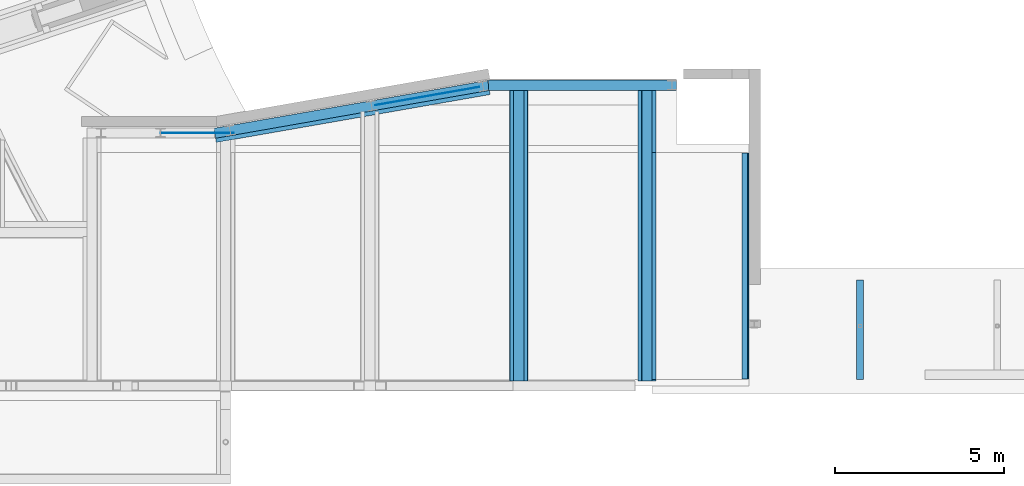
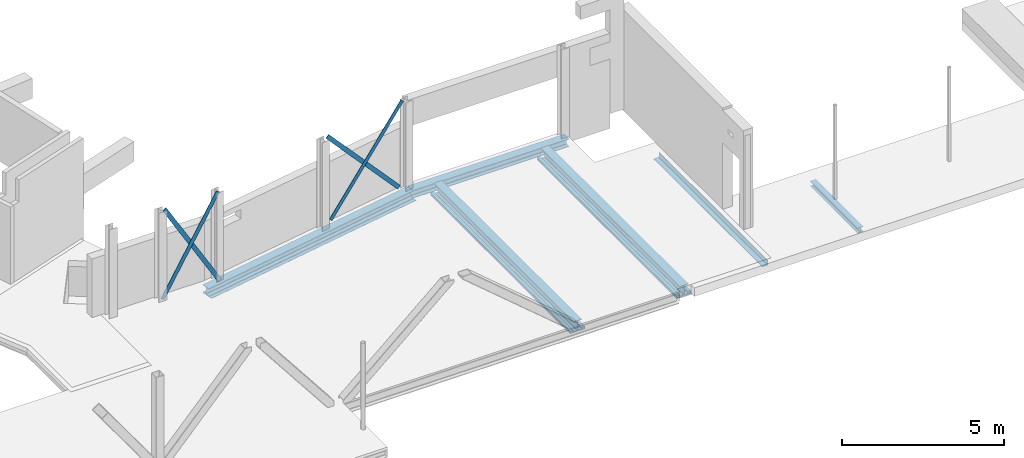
# One storey, part 16 of 37: 14 beams.
"""IFC2X3 building model written with IfcOpenShell, lengths in millimetres."""

from ifc_helpers import new_model, entity, si_unit, converted_unit, derived_unit, direction, frame, frame_2d, origin, place, context, subcontext, project, spatial, polyline, circle_curve, parameter, trimmed, segment, composite_curve, rectangle, i_section, outline, extrude, source, transform, mapped, material, material_list, type_object, type_shapes, element, save


model = new_model("IFC2X3")

# Units and contexts
model_context = context("Model", 3, precision=0.01, world=origin(), true_north=direction((6.12303176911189e-17, 1.0)))
body_context = subcontext(model_context, "Body", "Model", "MODEL_VIEW")
ifc_project = project(units=[si_unit("LENGTHUNIT", "METRE", prefix="MILLI"), si_unit("AREAUNIT", "SQUARE_METRE", prefix="MILLI"), si_unit("VOLUMEUNIT", "CUBIC_METRE"), converted_unit("PLANEANGLEUNIT", "DEGREE", entity("IfcRatioMeasure", 0.0174532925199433), si_unit("PLANEANGLEUNIT", "RADIAN"), dimensions=[0, 0, 0, 0, 0, 0, 0]), si_unit("MASSUNIT", "GRAM", prefix="KILO"), derived_unit("MASSDENSITYUNIT", [(si_unit("MASSUNIT", "GRAM", prefix="KILO"), 1), (si_unit("LENGTHUNIT", "METRE"), -3)]), derived_unit("MOMENTOFINERTIAUNIT", [(si_unit("LENGTHUNIT", "METRE"), 4)]), si_unit("TIMEUNIT", "SECOND"), si_unit("FREQUENCYUNIT", "HERTZ"), si_unit("THERMODYNAMICTEMPERATUREUNIT", "DEGREE_CELSIUS"), derived_unit("THERMALTRANSMITTANCEUNIT", [(si_unit("MASSUNIT", "GRAM", prefix="KILO"), 1), (si_unit("THERMODYNAMICTEMPERATUREUNIT", "KELVIN"), -1), (si_unit("TIMEUNIT", "SECOND"), -3)]), derived_unit("VOLUMETRICFLOWRATEUNIT", [(si_unit("LENGTHUNIT", "METRE"), 3), (si_unit("TIMEUNIT", "SECOND"), -1)]), si_unit("ELECTRICCURRENTUNIT", "AMPERE"), si_unit("ELECTRICVOLTAGEUNIT", "VOLT"), si_unit("POWERUNIT", "WATT"), si_unit("FORCEUNIT", "NEWTON", prefix="KILO"), si_unit("ILLUMINANCEUNIT", "LUX"), si_unit("LUMINOUSFLUXUNIT", "LUMEN"), si_unit("LUMINOUSINTENSITYUNIT", "CANDELA"), derived_unit("USERDEFINED", [(si_unit("MASSUNIT", "GRAM", prefix="KILO"), -1), (si_unit("LENGTHUNIT", "METRE"), -2), (si_unit("TIMEUNIT", "SECOND"), 3), (si_unit("LUMINOUSFLUXUNIT", "LUMEN"), 1)]), derived_unit("LINEARVELOCITYUNIT", [(si_unit("LENGTHUNIT", "METRE"), 1), (si_unit("TIMEUNIT", "SECOND"), -1)]), si_unit("PRESSUREUNIT", "PASCAL"), derived_unit("USERDEFINED", [(si_unit("LENGTHUNIT", "METRE"), -2), (si_unit("MASSUNIT", "GRAM", prefix="KILO"), 1), (si_unit("TIMEUNIT", "SECOND"), -2)]), derived_unit("LINEARFORCEUNIT", [(si_unit("MASSUNIT", "GRAM", prefix="KILO"), 1), (si_unit("LENGTHUNIT", "METRE"), 1), (si_unit("TIMEUNIT", "SECOND"), -2), (si_unit("LENGTHUNIT", "METRE"), -1)]), derived_unit("PLANARFORCEUNIT", [(si_unit("MASSUNIT", "GRAM", prefix="KILO"), 1), (si_unit("LENGTHUNIT", "METRE"), 1), (si_unit("TIMEUNIT", "SECOND"), -2), (si_unit("LENGTHUNIT", "METRE"), -2)])], contexts=[model_context])

# Site, building, storey
site_placement = place(None, origin())
site = spatial("IfcSite", under=ifc_project, at=site_placement, Name="Theater aan de Parade", CompositionType="ELEMENT")
building_placement = place(site_placement, origin())
building = spatial("IfcBuilding", under=site, at=building_placement, Name="Theater aan de Parade", CompositionType="ELEMENT")
storey_placement = place(building_placement, frame((0.0, 0.0, 5020.0)))
storey = spatial("IfcBuildingStorey", under=building, at=storey_placement, Name="01 eerste verdieping", CompositionType="ELEMENT", Elevation=5020.0)

# Beams
ifc_material_1 = material(Name="00_PBT_MAT_staal_S355")
beam_type_1 = type_object("IfcBeamType", Name="28_PBT_SF_staal_H-profiel (void):S355_HE300B", PredefinedType="NOTDEFINED")
beam_1_placement = place(storey_placement, frame((59658.8912564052, 21855.0, 0.0)))
element("IfcBeam", 1, at=beam_1_placement, inside=storey, type_object=beam_type_1, material=ifc_material_1, Name="28_PBT_SF_staal_H-profiel (void):S355_HE300B", ObjectType="28_PBT_SF_staal_H-profiel (void):S355_HE300B", context=body_context, shape_type="SweptSolid", body=[
    extrude(outline(composite_curve([segment(polyline([(131.0, -150.0), (150.0, -150.0)]), True, "CONTINUOUS"), segment(polyline([(150.0, -150.0), (150.0, 150.0)]), True, "CONTINUOUS"), segment(polyline([(150.0, 150.0), (131.0, 150.0)]), True, "CONTINUOUS"), segment(polyline([(131.0, 150.0), (131.0, 32.5000000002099)]), True, "CONTINUOUS"), segment(trimmed(circle_curve(frame_2d((104.0, 32.5000000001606), x_axis=(1.0, 0.0)), 26.9999999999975), [parameter(269.999999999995)], [parameter(0.0)], True, "PARAMETER"), False, "CONTINUOUS"), segment(polyline([(104.0, 5.50000000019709), (-104.0, 5.49999999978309)]), True, "CONTINUOUS"), segment(trimmed(circle_curve(frame_2d((-104.0, 32.499999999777), x_axis=(0.0, -1.0)), 26.9999999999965), [parameter(269.999999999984)], [parameter(0.0)], True, "PARAMETER"), False, "CONTINUOUS"), segment(polyline([(-131.0, 32.4999999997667), (-131.0, 150.0)]), True, "CONTINUOUS"), segment(polyline([(-131.0, 150.0), (-150.0, 150.0)]), True, "CONTINUOUS"), segment(polyline([(-150.0, 150.0), (-150.0, -150.0)]), True, "CONTINUOUS"), segment(polyline([(-150.0, -150.0), (-131.0, -150.0)]), True, "CONTINUOUS"), segment(polyline([(-131.0, -150.0), (-131.0, -32.5000000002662)]), True, "CONTINUOUS"), segment(trimmed(circle_curve(frame_2d((-104.0, -32.5000000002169), x_axis=(-1.0, 0.0)), 26.9999999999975), [parameter(269.999999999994)], [parameter(0.0)], True, "PARAMETER"), False, "CONTINUOUS"), segment(polyline([(-104.0, -5.50000000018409), (104.0, -5.4999999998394)]), True, "CONTINUOUS"), segment(trimmed(circle_curve(frame_2d((104.0, -32.4999999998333), x_axis=(0.0, 1.0)), 26.9999999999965), [parameter(269.999999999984)], [parameter(0.0)], True, "PARAMETER"), False, "CONTINUOUS"), segment(polyline([(131.0, -32.4999999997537), (131.0, -150.0)]), True, "CONTINUOUS")], self_intersect=False)), frame((0.0, 0.0, -310.0), z_axis=(1.0, 0.0, 0.0), x_axis=(0.0, 0.0, -1.0)), (0.0, 0.0, 1.0), 5553.16081909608),
])
ifc_material_2 = material(Name="00_PBT_MAT_Lucht")
ifc_material_list_1 = material_list([ifc_material_2, ifc_material_1])
beam_type_2 = type_object("IfcBeamType", Name="28_PBT_SF_staal_H-profiel_met_ondergelaste_strip (void):S355_HE300B + ondergelaste strip d=12", PredefinedType="BEAM", material=ifc_material_list_1)
shared_shape_1 = source(origin(), body_context, "Body", "SweptSolid", [
    extrude(i_section(OverallWidth=299.999999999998, OverallDepth=300.0, WebThickness=11.0000000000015, FlangeThickness=19.0, FilletRadius=26.9999999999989, at=frame_2d((0.0, 6.3948846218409e-12), x_axis=(0.0, 1.0))), frame((51552.3742094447, 20432.0449294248, 4705.0), z_axis=(0.985030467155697, 0.172380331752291, 0.0), x_axis=(0.0, 0.0, 1.0)), (0.0, 0.0, 1.0), 8227.18093451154),
    extrude(rectangle(XDim=11.9999999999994, YDim=420.000000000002, at=frame_2d((2.70450328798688e-13, 2.88480350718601e-12), x_axis=(1.0, 0.0))), frame((51564.5639614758, 20368.1903293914, 4549.0), z_axis=(0.985030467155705, 0.172380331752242, 0.0), x_axis=(0.0, 0.0, 1.0)), (0.0, 0.0, 1.0), 8225.18093451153),
])
type_shapes(beam_type_2, [shared_shape_1])
beam_2_placement = place(storey_placement, frame((0.0, 0.0, -5020.0)))
element("IfcBeam", 2, at=beam_2_placement, inside=storey, type_object=beam_type_2, material=ifc_material_1, Name="28_PBT_SF_staal_H-profiel_met_ondergelaste_strip (void):S355_HE300B + ondergelaste strip d=12", ObjectType="28_PBT_SF_staal_H-profiel_met_ondergelaste_strip (void):S355_HE300B + ondergelaste strip d=12", context=body_context, shape_type="MappedRepresentation", body=[
    mapped(shared_shape_1, transform((0.0, 0.0, 0.0), scale=1.0)),
])
beam_type_3 = type_object("IfcBeamType", Name="28_PBT_SF_staal_L-profiel:S355_L200x200x20", PredefinedType="NOTDEFINED")
beam_3_placement = place(storey_placement, frame((67299.4561009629, 13050.0, 0.0), z_axis=(0.0, 0.0, 1.0), x_axis=(0.0, 1.0, 0.0)))
element("IfcBeam", 3, at=beam_3_placement, inside=storey, type_object=beam_type_3, material=ifc_material_1, Name="28_PBT_SF_staal_L-profiel:S355_L200x200x20", ObjectType="28_PBT_SF_staal_L-profiel:S355_L200x200x20", context=body_context, shape_type="SweptSolid", body=[
    extrude(outline(composite_curve([segment(polyline([(-124.444444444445, -75.5555555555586), (75.5555555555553, -75.5555555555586)]), True, "CONTINUOUS"), segment(polyline([(75.5555555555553, -75.5555555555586), (75.5555555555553, 124.444444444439)]), True, "CONTINUOUS"), segment(polyline([(75.5555555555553, 124.444444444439), (64.5555555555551, 124.444444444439)]), True, "CONTINUOUS"), segment(trimmed(circle_curve(frame_2d((64.5555555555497, 115.444444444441), x_axis=(0.0, 1.0)), 8.99999999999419), [parameter(0.0)], [parameter(90.000000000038)], True, "PARAMETER"), True, "CONTINUOUS"), segment(polyline([(55.5555555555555, 115.444444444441), (55.5555555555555, -37.5555555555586)]), True, "CONTINUOUS"), segment(trimmed(circle_curve(frame_2d((37.5555555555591, -37.5555555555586), x_axis=(1.0, 0.0)), 17.9999999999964), [parameter(269.999999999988)], [parameter(0.0)], True, "PARAMETER"), False, "CONTINUOUS"), segment(polyline([(37.5555555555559, -55.5555555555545), (-115.444444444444, -55.5555555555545)]), True, "CONTINUOUS"), segment(trimmed(circle_curve(frame_2d((-115.44444444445, -64.5555555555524), x_axis=(0.0, 1.0)), 8.99999999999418), [parameter(0.0)], [parameter(90.000000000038)], True, "PARAMETER"), True, "CONTINUOUS"), segment(polyline([(-124.444444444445, -64.5555555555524), (-124.444444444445, -75.5555555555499)]), True, "CONTINUOUS")], self_intersect=False)), frame((112.699999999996, 18.7555555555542, -409.444444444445), z_axis=(1.0, 0.0, 0.0), x_axis=(0.0, 0.0, -1.0)), (0.0, 0.0, 1.0), 6690.9401487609),
])
ifc_material_3 = material(Name="00_PBT_MAT_staal_S235")
beam_type_4 = type_object("IfcBeamType", Name="28_PBT_SF_staal_koker:S235_K80x120x6.3", PredefinedType="NOTDEFINED")
beam_4_placement = place(storey_placement, frame((64074.5520755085, 21705.0, 0.0), z_axis=(0.0, 0.0, 1.0), x_axis=(0.0, -1.0, 0.0)))
element("IfcBeam", 4, at=beam_4_placement, inside=storey, type_object=beam_type_4, material=ifc_material_3, Name="28_PBT_SF_staal_koker:S235_K80x120x6.3", ObjectType="28_PBT_SF_staal_koker:S235_K80x120x6.3", context=body_context, shape_type="SweptSolid", body=[
    extrude(outline(composite_curve([segment(polyline([(-30.5500000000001, -60.0), (30.5499999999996, -60.0)]), True, "CONTINUOUS"), segment(trimmed(circle_curve(frame_2d((30.5499999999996, -50.5499999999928), x_axis=(0.0, 1.0)), 9.45), [parameter(180.0)], [parameter(270.0)], True, "PARAMETER"), True, "CONTINUOUS"), segment(polyline([(40.0, -50.5499999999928), (40.0, 50.5500000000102)]), True, "CONTINUOUS"), segment(trimmed(circle_curve(frame_2d((30.5499999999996, 50.5500000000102), x_axis=(0.0, 1.0)), 9.45), [parameter(270.0)], [parameter(360.0)], True, "PARAMETER"), True, "CONTINUOUS"), segment(polyline([(30.5499999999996, 60.0), (-30.5500000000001, 60.0)]), True, "CONTINUOUS"), segment(trimmed(circle_curve(frame_2d((-30.5500000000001, 50.5500000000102), x_axis=(0.0, 1.0)), 9.45), [parameter(0.0)], [parameter(90.0000000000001)], True, "PARAMETER"), True, "CONTINUOUS"), segment(polyline([(-40.0, 50.5500000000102), (-40.0, -50.5499999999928)]), True, "CONTINUOUS"), segment(trimmed(circle_curve(frame_2d((-30.5500000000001, -50.5499999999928), x_axis=(0.0, 1.0)), 9.45), [parameter(90.0)], [parameter(180.0)], True, "PARAMETER"), True, "CONTINUOUS")], self_intersect=False), holes=[composite_curve([segment(polyline([(33.6999999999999, 47.4000000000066), (33.6999999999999, -47.3999999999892)]), True, "CONTINUOUS"), segment(trimmed(circle_curve(frame_2d((27.3999999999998, -47.3999999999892), x_axis=(0.0, 1.0)), 6.3), [parameter(180.0)], [parameter(270.0)], True, "PARAMETER"), False, "CONTINUOUS"), segment(polyline([(27.3999999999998, -53.6999999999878), (-27.4000000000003, -53.6999999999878)]), True, "CONTINUOUS"), segment(trimmed(circle_curve(frame_2d((-27.4000000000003, -47.3999999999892), x_axis=(0.0, 1.0)), 6.3), [parameter(90.0)], [parameter(180.0)], True, "PARAMETER"), False, "CONTINUOUS"), segment(polyline([(-33.7000000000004, -47.3999999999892), (-33.7000000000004, 47.4000000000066)]), True, "CONTINUOUS"), segment(trimmed(circle_curve(frame_2d((-27.4000000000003, 47.4000000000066), x_axis=(0.0, 1.0)), 6.3), [parameter(4.07110999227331e-13)], [parameter(90.0000000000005)], True, "PARAMETER"), False, "CONTINUOUS"), segment(polyline([(-27.4000000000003, 53.7000000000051), (27.3999999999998, 53.7000000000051)]), True, "CONTINUOUS"), segment(trimmed(circle_curve(frame_2d((27.3999999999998, 47.4000000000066), x_axis=(0.0, 1.0)), 6.3), [parameter(270.0)], [parameter(360.0)], True, "PARAMETER"), False, "CONTINUOUS")], self_intersect=False)]), frame((0.0, 60.0, -505.0), z_axis=(1.0, 0.0, 0.0), x_axis=(0.0, 0.0, 1.0)), (0.0, 0.0, 1.0), 8600.00000000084),
])
beam_5_placement = place(storey_placement, frame((64614.5520755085, 19866.34014876, 0.0), z_axis=(0.0, 0.0, 1.0), x_axis=(0.0, -1.0, 0.0)))
element("IfcBeam", 5, at=beam_5_placement, inside=storey, type_object=beam_type_4, material=ifc_material_3, Name="28_PBT_SF_staal_koker:S235_K80x120x6.3", ObjectType="28_PBT_SF_staal_koker:S235_K80x120x6.3", context=body_context, shape_type="SweptSolid", body=[
    extrude(outline(composite_curve([segment(trimmed(circle_curve(frame_2d((-50.5499999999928, -30.5500000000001), x_axis=(1.0, 0.0)), 9.45), [parameter(180.0)], [parameter(270.0)], True, "PARAMETER"), True, "CONTINUOUS"), segment(polyline([(-50.5500000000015, -40.0), (50.5500000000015, -40.0)]), True, "CONTINUOUS"), segment(trimmed(circle_curve(frame_2d((50.5500000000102, -30.5500000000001), x_axis=(1.0, 0.0)), 9.45), [parameter(270.0)], [parameter(0.0)], True, "PARAMETER"), True, "CONTINUOUS"), segment(polyline([(60.0, -30.5500000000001), (60.0, 30.5499999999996)]), True, "CONTINUOUS"), segment(trimmed(circle_curve(frame_2d((50.5500000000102, 30.5499999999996), x_axis=(1.0, 0.0)), 9.45), [parameter(3.56222124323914e-13)], [parameter(90.0000000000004)], True, "PARAMETER"), True, "CONTINUOUS"), segment(polyline([(50.5500000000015, 40.0), (-50.5500000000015, 40.0)]), True, "CONTINUOUS"), segment(trimmed(circle_curve(frame_2d((-50.5499999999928, 30.5499999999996), x_axis=(1.0, 0.0)), 9.45), [parameter(90.0000000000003)], [parameter(180.0)], True, "PARAMETER"), True, "CONTINUOUS"), segment(polyline([(-60.0, 30.5499999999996), (-60.0, -30.5500000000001)]), True, "CONTINUOUS")], self_intersect=False), holes=[composite_curve([segment(trimmed(circle_curve(frame_2d((47.4000000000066, 27.3999999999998), x_axis=(1.0, 0.0)), 6.3), [parameter(5.08888749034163e-14)], [parameter(90.0000000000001)], True, "PARAMETER"), False, "CONTINUOUS"), segment(polyline([(53.6999999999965, 27.3999999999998), (53.6999999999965, -27.4000000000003)]), True, "CONTINUOUS"), segment(trimmed(circle_curve(frame_2d((47.4000000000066, -27.4000000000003), x_axis=(1.0, 0.0)), 6.3), [parameter(269.999999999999)], [parameter(360.0)], True, "PARAMETER"), False, "CONTINUOUS"), segment(polyline([(47.3999999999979, -33.7000000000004), (-47.3999999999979, -33.7000000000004)]), True, "CONTINUOUS"), segment(trimmed(circle_curve(frame_2d((-47.3999999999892, -27.4000000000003), x_axis=(1.0, 0.0)), 6.3), [parameter(180.0)], [parameter(270.0)], True, "PARAMETER"), False, "CONTINUOUS"), segment(polyline([(-53.6999999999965, -27.4000000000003), (-53.6999999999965, 27.3999999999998)]), True, "CONTINUOUS"), segment(trimmed(circle_curve(frame_2d((-47.3999999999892, 27.3999999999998), x_axis=(1.0, 0.0)), 6.3), [parameter(89.9999999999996)], [parameter(180.0)], True, "PARAMETER"), False, "CONTINUOUS"), segment(polyline([(-47.3999999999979, 33.6999999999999), (47.3999999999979, 33.6999999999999)]), True, "CONTINUOUS")], self_intersect=False)]), frame((0.0, -60.0, -505.0), z_axis=(1.0, 0.0, 0.0), x_axis=(0.0, 1.0, 0.0)), (0.0, 0.0, 1.0), 6716.34014876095),
])
beam_6_placement = place(storey_placement, frame((60280.5520755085, 21705.0, 0.0), z_axis=(0.0, 0.0, 1.0), x_axis=(0.0, -1.0, 0.0)))
element("IfcBeam", 6, at=beam_6_placement, inside=storey, type_object=beam_type_4, material=ifc_material_3, Name="28_PBT_SF_staal_koker:S235_K80x120x6.3", ObjectType="28_PBT_SF_staal_koker:S235_K80x120x6.3", context=body_context, shape_type="SweptSolid", body=[
    extrude(outline(composite_curve([segment(polyline([(-30.5500000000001, -60.0), (30.5499999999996, -60.0)]), True, "CONTINUOUS"), segment(trimmed(circle_curve(frame_2d((30.5499999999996, -50.5500000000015), x_axis=(0.0, 1.0)), 9.45), [parameter(180.0)], [parameter(270.0)], True, "PARAMETER"), True, "CONTINUOUS"), segment(polyline([(40.0, -50.5500000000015), (40.0, 50.5500000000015)]), True, "CONTINUOUS"), segment(trimmed(circle_curve(frame_2d((30.5499999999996, 50.5500000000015), x_axis=(0.0, 1.0)), 9.45), [parameter(270.0)], [parameter(360.0)], True, "PARAMETER"), True, "CONTINUOUS"), segment(polyline([(30.5499999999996, 60.0), (-30.5500000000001, 60.0)]), True, "CONTINUOUS"), segment(trimmed(circle_curve(frame_2d((-30.5500000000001, 50.5500000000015), x_axis=(0.0, 1.0)), 9.45), [parameter(0.0)], [parameter(90.0000000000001)], True, "PARAMETER"), True, "CONTINUOUS"), segment(polyline([(-40.0, 50.5500000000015), (-40.0, -50.5500000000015)]), True, "CONTINUOUS"), segment(trimmed(circle_curve(frame_2d((-30.5500000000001, -50.5500000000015), x_axis=(0.0, 1.0)), 9.45), [parameter(90.0)], [parameter(180.0)], True, "PARAMETER"), True, "CONTINUOUS")], self_intersect=False), holes=[composite_curve([segment(polyline([(33.6999999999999, 47.3999999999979), (33.6999999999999, -47.3999999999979)]), True, "CONTINUOUS"), segment(trimmed(circle_curve(frame_2d((27.3999999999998, -47.3999999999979), x_axis=(0.0, 1.0)), 6.3), [parameter(180.0)], [parameter(270.0)], True, "PARAMETER"), False, "CONTINUOUS"), segment(polyline([(27.3999999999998, -53.6999999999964), (-27.4000000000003, -53.6999999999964)]), True, "CONTINUOUS"), segment(trimmed(circle_curve(frame_2d((-27.4000000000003, -47.3999999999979), x_axis=(0.0, 1.0)), 6.3), [parameter(90.0)], [parameter(180.0)], True, "PARAMETER"), False, "CONTINUOUS"), segment(polyline([(-33.7000000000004, -47.3999999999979), (-33.7000000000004, 47.3999999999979)]), True, "CONTINUOUS"), segment(trimmed(circle_curve(frame_2d((-27.4000000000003, 47.3999999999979), x_axis=(0.0, 1.0)), 6.3), [parameter(4.07110999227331e-13)], [parameter(90.0000000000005)], True, "PARAMETER"), False, "CONTINUOUS"), segment(polyline([(-27.4000000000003, 53.6999999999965), (27.3999999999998, 53.6999999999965)]), True, "CONTINUOUS"), segment(trimmed(circle_curve(frame_2d((27.3999999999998, 47.3999999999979), x_axis=(0.0, 1.0)), 6.3), [parameter(270.0)], [parameter(360.0)], True, "PARAMETER"), False, "CONTINUOUS")], self_intersect=False)]), frame((0.0, 60.0, -505.0), z_axis=(1.0, 0.0, 0.0), x_axis=(0.0, 0.0, 1.0)), (0.0, 0.0, 1.0), 8600.00000000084),
])
beam_7_placement = place(storey_placement, frame((60820.5520755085, 21705.0, 0.0), z_axis=(0.0, 0.0, 1.0), x_axis=(0.0, -1.0, 0.0)))
element("IfcBeam", 7, at=beam_7_placement, inside=storey, type_object=beam_type_4, material=ifc_material_3, Name="28_PBT_SF_staal_koker:S235_K80x120x6.3", ObjectType="28_PBT_SF_staal_koker:S235_K80x120x6.3", context=body_context, shape_type="SweptSolid", body=[
    extrude(outline(composite_curve([segment(trimmed(circle_curve(frame_2d((-50.5500000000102, -30.5500000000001), x_axis=(1.0, 0.0)), 9.45), [parameter(180.0)], [parameter(270.0)], True, "PARAMETER"), True, "CONTINUOUS"), segment(polyline([(-50.5500000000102, -40.0), (50.5499999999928, -40.0)]), True, "CONTINUOUS"), segment(trimmed(circle_curve(frame_2d((50.5499999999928, -30.5500000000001), x_axis=(1.0, 0.0)), 9.45), [parameter(270.0)], [parameter(0.0)], True, "PARAMETER"), True, "CONTINUOUS"), segment(polyline([(60.0, -30.5500000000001), (60.0, 30.5499999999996)]), True, "CONTINUOUS"), segment(trimmed(circle_curve(frame_2d((50.5499999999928, 30.5499999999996), x_axis=(1.0, 0.0)), 9.45), [parameter(3.56222124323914e-13)], [parameter(90.0000000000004)], True, "PARAMETER"), True, "CONTINUOUS"), segment(polyline([(50.5499999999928, 40.0), (-50.5500000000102, 40.0)]), True, "CONTINUOUS"), segment(trimmed(circle_curve(frame_2d((-50.5500000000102, 30.5499999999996), x_axis=(1.0, 0.0)), 9.45), [parameter(90.0000000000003)], [parameter(180.0)], True, "PARAMETER"), True, "CONTINUOUS"), segment(polyline([(-60.0, 30.5499999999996), (-60.0, -30.5500000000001)]), True, "CONTINUOUS")], self_intersect=False), holes=[composite_curve([segment(trimmed(circle_curve(frame_2d((47.3999999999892, 27.3999999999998), x_axis=(1.0, 0.0)), 6.3), [parameter(5.08888749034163e-14)], [parameter(90.0000000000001)], True, "PARAMETER"), False, "CONTINUOUS"), segment(polyline([(53.6999999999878, 27.3999999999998), (53.6999999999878, -27.4000000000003)]), True, "CONTINUOUS"), segment(trimmed(circle_curve(frame_2d((47.3999999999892, -27.4000000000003), x_axis=(1.0, 0.0)), 6.3), [parameter(269.999999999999)], [parameter(360.0)], True, "PARAMETER"), False, "CONTINUOUS"), segment(polyline([(47.3999999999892, -33.7000000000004), (-47.4000000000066, -33.7000000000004)]), True, "CONTINUOUS"), segment(trimmed(circle_curve(frame_2d((-47.4000000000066, -27.4000000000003), x_axis=(1.0, 0.0)), 6.3), [parameter(180.0)], [parameter(270.0)], True, "PARAMETER"), False, "CONTINUOUS"), segment(polyline([(-53.7000000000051, -27.4000000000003), (-53.7000000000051, 27.3999999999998)]), True, "CONTINUOUS"), segment(trimmed(circle_curve(frame_2d((-47.4000000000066, 27.3999999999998), x_axis=(1.0, 0.0)), 6.3), [parameter(89.9999999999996)], [parameter(180.0)], True, "PARAMETER"), False, "CONTINUOUS"), segment(polyline([(-47.4000000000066, 33.6999999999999), (47.3999999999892, 33.6999999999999)]), True, "CONTINUOUS")], self_intersect=False)]), frame((0.0, -60.0, -505.0), z_axis=(1.0, 0.0, 0.0), x_axis=(0.0, 1.0, 0.0)), (0.0, 0.0, 1.0), 8600.00000000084),
])
ifc_material_list_2 = material_list([ifc_material_1, ifc_material_2])
beam_type_5 = type_object("IfcBeamType", Name="28_PBT_SF_staal_H-profiel_met_onderplaat (void):S355_HE400B + onderplaat d=15", PredefinedType="BEAM", material=ifc_material_list_2)
shared_shape_2 = source(origin(), body_context, "Body", "SweptSolid", [
    extrude(i_section(OverallWidth=300.000000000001, OverallDepth=400.0, WebThickness=13.4999999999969, FlangeThickness=23.9999999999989, FilletRadius=26.9999999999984, at=frame_2d((8.65441052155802e-12, 0.0), x_axis=(1.0, 0.0))), frame((64344.5520755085, 21705.0, 4675.0), z_axis=(0.0, -1.0, 0.0), x_axis=(-1.0, 0.0, 0.0)), (0.0, 0.0, 1.0), 8600.00000000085),
    extrude(rectangle(XDim=14.9999999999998, YDim=539.999999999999, at=frame_2d((0.0, 2.70894418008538e-13), x_axis=(0.0, 1.0))), frame((64344.5520755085, 21705.0, 4467.5), z_axis=(0.0, -1.0, 0.0), x_axis=(-1.0, 0.0, 0.0)), (0.0, 0.0, 1.0), 8600.00000000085),
])
type_shapes(beam_type_5, [shared_shape_2])
beam_8_placement = place(storey_placement, frame((0.0, 0.0, -5020.0)))
element("IfcBeam", 8, at=beam_8_placement, inside=storey, type_object=beam_type_5, material=ifc_material_1, Name="28_PBT_SF_staal_H-profiel_met_onderplaat (void):S355_HE400B + onderplaat d=15", ObjectType="28_PBT_SF_staal_H-profiel_met_onderplaat (void):S355_HE400B + onderplaat d=15", context=body_context, shape_type="MappedRepresentation", body=[
    mapped(shared_shape_2, transform((0.0, 0.0, 0.0), scale=1.0)),
])
beam_type_6 = type_object("IfcBeamType", Name="28_PBT_SF_staal_H-profiel:S355_HE200A", PredefinedType="NOTDEFINED")
beam_9_placement = place(storey_placement, frame((70649.8589693, 16087.0, 0.0), z_axis=(0.0, 0.0, 1.0), x_axis=(0.0, -1.0, 0.0)))
element("IfcBeam", 9, at=beam_9_placement, inside=storey, type_object=beam_type_6, material=ifc_material_1, Name="28_PBT_SF_staal_H-profiel:S355_HE200A", ObjectType="28_PBT_SF_staal_H-profiel:S355_HE200A", context=body_context, shape_type="SweptSolid", body=[
    extrude(outline(composite_curve([segment(polyline([(85.0, -100.0), (95.0, -100.0)]), True, "CONTINUOUS"), segment(polyline([(95.0, -100.0), (95.0, 100.0)]), True, "CONTINUOUS"), segment(polyline([(95.0, 100.0), (85.0, 100.0)]), True, "CONTINUOUS"), segment(polyline([(85.0, 100.0), (85.0, 21.2499999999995)]), True, "CONTINUOUS"), segment(trimmed(circle_curve(frame_2d((67.0, 21.2499999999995), x_axis=(1.0, 0.0)), 17.9999999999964), [parameter(269.999999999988)], [parameter(0.0)], True, "PARAMETER"), False, "CONTINUOUS"), segment(polyline([(67.0, 3.24999999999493), (-67.0, 3.24999999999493)]), True, "CONTINUOUS"), segment(trimmed(circle_curve(frame_2d((-67.0, 21.2499999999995), x_axis=(0.0, -1.0)), 17.9999999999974), [parameter(269.99999999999)], [parameter(0.0)], True, "PARAMETER"), False, "CONTINUOUS"), segment(polyline([(-85.0, 21.2499999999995), (-85.0, 100.0)]), True, "CONTINUOUS"), segment(polyline([(-85.0, 100.0), (-95.0, 100.0)]), True, "CONTINUOUS"), segment(polyline([(-95.0, 100.0), (-95.0, -100.0)]), True, "CONTINUOUS"), segment(polyline([(-95.0, -100.0), (-85.0, -100.0)]), True, "CONTINUOUS"), segment(polyline([(-85.0, -100.0), (-85.0, -21.2499999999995)]), True, "CONTINUOUS"), segment(trimmed(circle_curve(frame_2d((-67.0, -21.2499999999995), x_axis=(-1.0, 0.0)), 17.9999999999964), [parameter(269.999999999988)], [parameter(0.0)], True, "PARAMETER"), False, "CONTINUOUS"), segment(polyline([(-67.0, -3.25000000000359), (67.0, -3.25000000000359)]), True, "CONTINUOUS"), segment(trimmed(circle_curve(frame_2d((67.0, -21.2499999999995), x_axis=(0.0, 1.0)), 17.9999999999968), [parameter(269.99999999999)], [parameter(0.0)], True, "PARAMETER"), False, "CONTINUOUS"), segment(polyline([(85.0, -21.2499999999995), (85.0, -100.0)]), True, "CONTINUOUS")], self_intersect=False)), frame((0.0, 0.0, -305.0), z_axis=(1.0, 0.0, 0.0), x_axis=(0.0, 0.0, -1.0)), (0.0, 0.0, 1.0), 2937.00000000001),
])
ifc_material_4 = material(Name="00_PBT_MAT_staal")
beam_type_7 = type_object("IfcBeamType", Name="28_PBT_SF_staal_strip:strip 10x150", PredefinedType="NOTDEFINED")
beam_10_placement = place(storey_placement, frame((56193.2454552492, 21244.1973974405, -250.0), z_axis=(0.753035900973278, -0.100611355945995, -0.650241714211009), x_axis=(0.65797943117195, 0.115146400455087, 0.744180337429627)))
element("IfcBeam", 10, at=beam_10_placement, inside=storey, type_object=beam_type_7, material=ifc_material_4, Name="28_PBT_SF_staal_strip:strip 10x150", ObjectType="28_PBT_SF_staal_strip:strip 10x150", context=body_context, shape_type="SweptSolid", body=[
    extrude(rectangle(XDim=150.00000000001, YDim=9.99999999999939, at=frame_2d((-3.52029516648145e-12, 4.44799752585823e-12), x_axis=(0.0, 1.0))), frame((454.262341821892, 0.0, 0.0), z_axis=(1.0, 0.0, 0.0), x_axis=(0.0, -0.973446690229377, -0.228913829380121)), (0.0, 0.0, 1.0), 4307.74335104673),
])
beam_11_placement = place(storey_placement, frame((59491.1870358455, 21821.3371740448, -250.0), z_axis=(0.753035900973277, -0.100611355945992, 0.650241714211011), x_axis=(-0.657979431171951, -0.115146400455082, 0.744180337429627)))
element("IfcBeam", 11, at=beam_11_placement, inside=storey, type_object=beam_type_7, material=ifc_material_4, Name="28_PBT_SF_staal_strip:strip 10x150", ObjectType="28_PBT_SF_staal_strip:strip 10x150", context=body_context, shape_type="SweptSolid", body=[
    extrude(rectangle(XDim=150.000000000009, YDim=10.0000000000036, at=frame_2d((-6.3948846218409e-13, -2.13296047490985e-12), x_axis=(1.0, 0.0))), frame((454.262341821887, 0.0, 0.0), z_axis=(1.0, 0.0, 0.0), x_axis=(0.0, -0.22891382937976, 0.973446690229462)), (0.0, 0.0, 1.0), 4307.74335104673),
])
beam_12_placement = place(storey_placement, frame((49939.9175333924, 20445.0, -236.146651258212), z_axis=(0.862038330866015, 0.0, -0.50684308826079), x_axis=(0.50684308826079, 0.0, 0.862038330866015)))
element("IfcBeam", 12, at=beam_12_placement, inside=storey, type_object=beam_type_7, material=ifc_material_4, Name="28_PBT_SF_staal_strip:strip 10x150", ObjectType="28_PBT_SF_staal_strip:strip 10x150", context=body_context, shape_type="SweptSolid", body=[
    extrude(rectangle(XDim=150.000000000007, YDim=10.0000000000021, at=frame_2d((-1.35003119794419e-13, 2.16582307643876e-12), x_axis=(1.0, 0.0))), frame((147.581027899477, 0.0, 0.0), z_axis=(1.0, 0.0, 0.0), x_axis=(0.0, 0.0, -1.0)), (0.0, 0.0, 1.0), 3902.19871328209),
])
beam_13_placement = place(storey_placement, frame((52131.5537725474, 20445.0, -236.146651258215), z_axis=(0.862038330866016, 0.0, 0.506843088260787), x_axis=(-0.506843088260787, 0.0, 0.862038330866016)))
element("IfcBeam", 13, at=beam_13_placement, inside=storey, type_object=beam_type_7, material=ifc_material_4, Name="28_PBT_SF_staal_strip:strip 10x150", ObjectType="28_PBT_SF_staal_strip:strip 10x150", context=body_context, shape_type="SweptSolid", body=[
    extrude(rectangle(XDim=149.999999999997, YDim=10.0000000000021, at=frame_2d((4.69668748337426e-12, -4.33164615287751e-12), x_axis=(1.0, 0.0))), frame((147.581027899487, 0.0, 0.0), z_axis=(1.0, 0.0, 0.0), x_axis=(0.0, 0.0, -1.0)), (0.0, 0.0, 1.0), 3902.19871328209),
])
ifc_material_list_3 = material_list([ifc_material_2, ifc_material_1])
beam_type_8 = type_object("IfcBeamType", Name="28_PBT_SF_staal_H-profiel_met_onderplaat (void):S355_HE400B + onderplaat d=15", PredefinedType="BEAM", material=ifc_material_list_3)
shared_shape_3 = source(origin(), body_context, "Body", "SweptSolid", [
    extrude(i_section(OverallWidth=300.000000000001, OverallDepth=400.0, WebThickness=13.4999999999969, FlangeThickness=23.9999999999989, FilletRadius=26.9999999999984, at=frame_2d((8.65441052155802e-12, 0.0), x_axis=(1.0, 0.0))), frame((60550.5520755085, 21705.0, 4675.0), z_axis=(0.0, -1.0, 0.0), x_axis=(-1.0, 0.0, 0.0)), (0.0, 0.0, 1.0), 8600.00000000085),
    extrude(rectangle(XDim=14.9999999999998, YDim=539.999999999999, at=frame_2d((0.0, 2.70894418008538e-13), x_axis=(0.0, 1.0))), frame((60550.5520755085, 21705.0, 4467.5), z_axis=(0.0, -1.0, 0.0), x_axis=(-1.0, 0.0, 0.0)), (0.0, 0.0, 1.0), 8600.00000000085),
])
type_shapes(beam_type_8, [shared_shape_3])
beam_14_placement = place(storey_placement, frame((0.0, 0.0, -5020.0)))
element("IfcBeam", 14, at=beam_14_placement, inside=storey, type_object=beam_type_8, material=ifc_material_1, Name="28_PBT_SF_staal_H-profiel_met_onderplaat (void):S355_HE400B + onderplaat d=15", ObjectType="28_PBT_SF_staal_H-profiel_met_onderplaat (void):S355_HE400B + onderplaat d=15", context=body_context, shape_type="MappedRepresentation", body=[
    mapped(shared_shape_3, transform((0.0, 0.0, 0.0), scale=1.0)),
])

save(model, "model.ifc")
